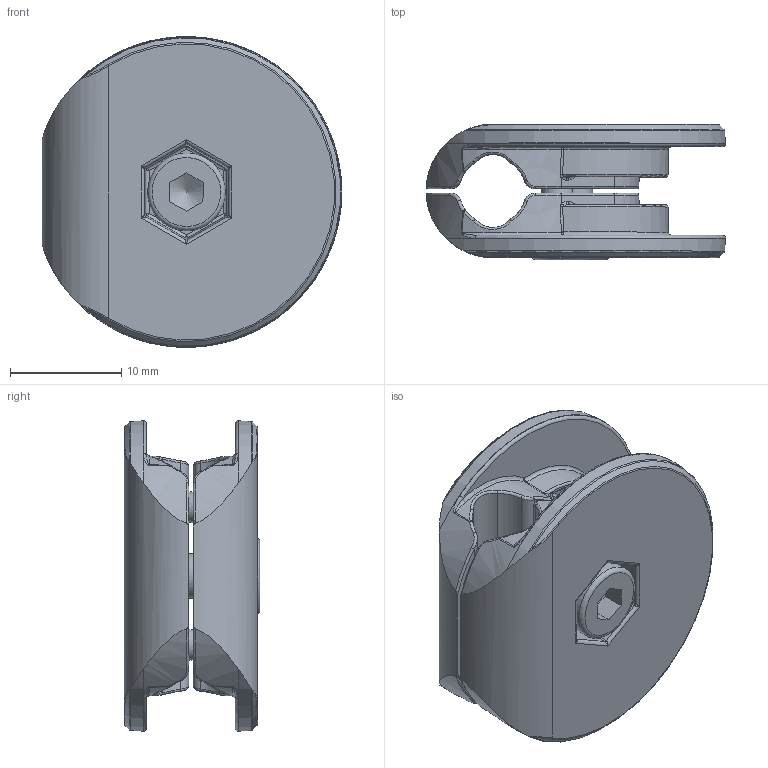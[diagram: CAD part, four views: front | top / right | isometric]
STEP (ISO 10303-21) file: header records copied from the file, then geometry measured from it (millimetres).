
FILE_DESCRIPTION(/* description */ (''),/* implementation_level */ '2;1');
FILE_NAME(/* name */ 'C:\#Vault-WorkDir\Konstruktions-Dokumente\Projekte\F10\Zubehör F10\153-13562_MBD F 10ST2 (Sensoclip F 10).stp',/* time_stamp */ '2018-12-12T08:57:24+01:00',/* author */ ('SensoPart'),/* organization */ ('SensoPart'),/* preprocessor_version */ 'ST-DEVELOPER v17',/* originating_system */ 'Autodesk Inventor 2018',/* authorisation */ '');
FILE_SCHEMA (('AUTOMOTIVE_DESIGN { 1 0 10303 214 3 1 1 }'));
Length unit declared in the file: millimetre
Products named in the file (1): GH-ENG-0027358_Shrinkwrap_1
Bounding box: 27 x 12.2 x 27.99 mm (x, y, z)
Volume: 4121.4 mm3; surface area: 3908.4 mm2
Topology: 4 solids, 4 shells, 268 faces, 629 edges, 352 vertices
Faces by surface type: bspline 84, cylinder 65, plane 51, torus 34, cone 26, sphere 8
Full cylindrical faces by diameter (mm): 3.242 x1, 4 x1, 4.2 x2, 7 x1
Entity records: 9933 total; most frequent: CARTESIAN_POINT 4349, ORIENTED_EDGE 1208, DIRECTION 1071, EDGE_CURVE 604, AXIS2_PLACEMENT_3D 459, VERTEX_POINT 352, EDGE_LOOP 282, FACE_OUTER_BOUND 268
